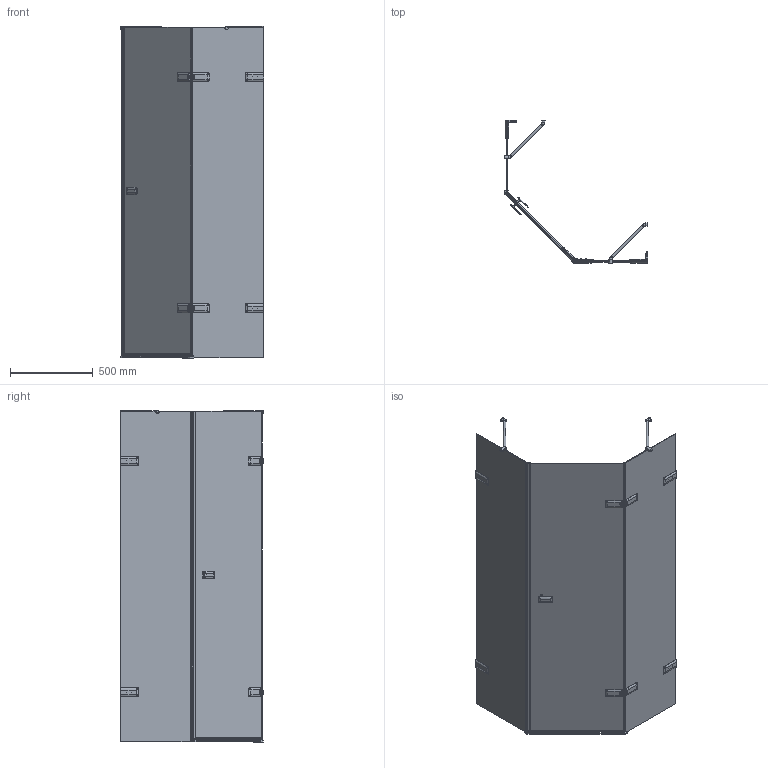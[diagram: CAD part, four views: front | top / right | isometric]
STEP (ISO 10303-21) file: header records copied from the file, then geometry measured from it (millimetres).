
FILE_DESCRIPTION(/* description */ (''),/* implementation_level */ '2;1');
FILE_NAME(/* name */ 'E:\Работа\Сергей\Душевые кабинки\! Работа\TREND FESTT GK-863ONE\TREND FESTT GK-863ONE правая модель\TREND FESTT GK-863ONE ПРАВАЯ-3D.stp',/* time_stamp */ '2017-09-07T18:58:54+03:00',/* author */ ('PC'),/* organization */ (''),/* preprocessor_version */ 'ST-DEVELOPER v15.2',/* originating_system */ 'Autodesk Inventor 2014',/* authorisation */ '');
FILE_SCHEMA (('AUTOMOTIVE_DESIGN { 1 0 10303 214 3 1 1 }'));
Products named in the file (1): TREND FESTT GK-863ONE ПРАВАЯ-
3D
Bounding box: 868.76 x 866.76 x 2009.49 mm (x, y, z)
Volume: 18712143.2 mm3; surface area: 6273107.6 mm2
Topology: 7 solids, 29 shells, 1617 faces, 4214 edges, 2739 vertices
Faces by surface type: plane 929, cylinder 407, bspline 178, torus 52, cone 32, sphere 19
Full cylindrical faces by diameter (mm): 4.917 x8, 6 x4, 9 x8, 13 x4, 15 x2, 20 x4, 26 x2, 28 x4, 28.5 x4, 40 x4
Entity records: 68460 total; most frequent: CARTESIAN_POINT 28910, ORIENTED_EDGE 7858, DIRECTION 7654, EDGE_CURVE 3927, AXIS2_PLACEMENT_3D 2601, VERTEX_POINT 2493, LINE 2452, VECTOR 2452
